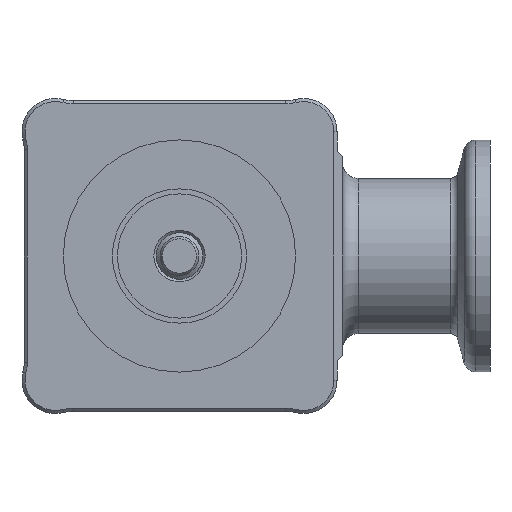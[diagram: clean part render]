
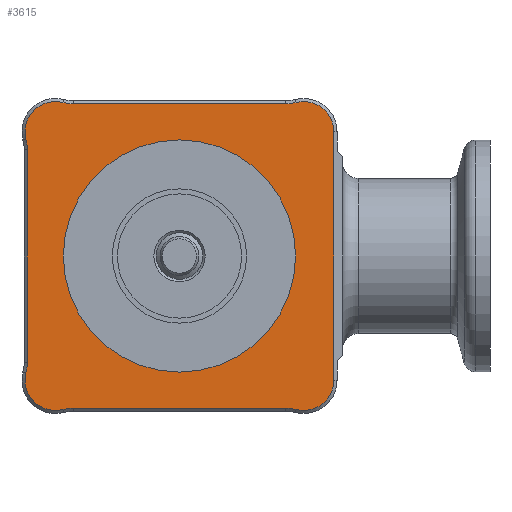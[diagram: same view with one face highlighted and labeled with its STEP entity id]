
A CAD part, front view. The second image highlights one B-rep face of the part: STEP entity #3615.
In plain terms, the highlighted planar face has unit normal (0, -1, 0).
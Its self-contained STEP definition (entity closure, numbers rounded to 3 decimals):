
#2446=LINE('',#14716,#3015);
#2447=LINE('',#14722,#3016);
#2448=LINE('',#14730,#3017);
#2449=LINE('',#14738,#3018);
#3015=VECTOR('',#11544,1.);
#3016=VECTOR('',#11549,1.);
#3017=VECTOR('',#11556,1.);
#3018=VECTOR('',#11563,1.);
#3615=ADVANCED_FACE('102-0-17',(#4208,#4209),#3911,.F.);
#3911=PLANE('',#9618);
#4208=FACE_BOUND('',#4827,.T.);
#4209=FACE_BOUND('',#4828,.T.);
#4827=EDGE_LOOP('',(#6634));
#4828=EDGE_LOOP('',(#6635,#6636,#6637,#6638,#6639,#6640,#6641,#6642,#6643,
#6644,#6645,#6646,#6647,#6648));
#6634=ORIENTED_EDGE('',*,*,#8485,.T.);
#6635=ORIENTED_EDGE('',*,*,#8486,.T.);
#6636=ORIENTED_EDGE('',*,*,#8487,.T.);
#6637=ORIENTED_EDGE('',*,*,#8488,.T.);
#6638=ORIENTED_EDGE('',*,*,#8489,.T.);
#6639=ORIENTED_EDGE('',*,*,#8490,.T.);
#6640=ORIENTED_EDGE('',*,*,#8491,.T.);
#6641=ORIENTED_EDGE('',*,*,#8492,.T.);
#6642=ORIENTED_EDGE('',*,*,#8493,.T.);
#6643=ORIENTED_EDGE('',*,*,#8494,.T.);
#6644=ORIENTED_EDGE('',*,*,#8495,.T.);
#6645=ORIENTED_EDGE('',*,*,#8496,.T.);
#6646=ORIENTED_EDGE('',*,*,#8497,.T.);
#6647=ORIENTED_EDGE('',*,*,#8498,.T.);
#6648=ORIENTED_EDGE('',*,*,#8499,.T.);
#7540=VERTEX_POINT('',#14712);
#7541=VERTEX_POINT('',#14714);
#7542=VERTEX_POINT('',#14715);
#7543=VERTEX_POINT('',#14717);
#7544=VERTEX_POINT('',#14719);
#7545=VERTEX_POINT('',#14721);
#7546=VERTEX_POINT('',#14723);
#7547=VERTEX_POINT('',#14725);
#7548=VERTEX_POINT('',#14727);
#7549=VERTEX_POINT('',#14729);
#7550=VERTEX_POINT('',#14731);
#7551=VERTEX_POINT('',#14733);
#7552=VERTEX_POINT('',#14735);
#7553=VERTEX_POINT('',#14737);
#7554=VERTEX_POINT('',#14739);
#8485=EDGE_CURVE('',#7540,#7540,#8901,.T.);
#8486=EDGE_CURVE('',#7541,#7542,#8902,.T.);
#8487=EDGE_CURVE('',#7542,#7543,#2446,.T.);
#8488=EDGE_CURVE('',#7543,#7544,#8903,.T.);
#8489=EDGE_CURVE('',#7544,#7545,#8904,.T.);
#8490=EDGE_CURVE('',#7545,#7546,#2447,.T.);
#8491=EDGE_CURVE('',#7546,#7547,#8905,.T.);
#8492=EDGE_CURVE('',#7547,#7548,#8906,.T.);
#8493=EDGE_CURVE('',#7548,#7549,#8907,.T.);
#8494=EDGE_CURVE('',#7549,#7550,#2448,.T.);
#8495=EDGE_CURVE('',#7550,#7551,#8908,.T.);
#8496=EDGE_CURVE('',#7551,#7552,#8909,.T.);
#8497=EDGE_CURVE('',#7552,#7553,#8910,.T.);
#8498=EDGE_CURVE('',#7553,#7554,#2449,.T.);
#8499=EDGE_CURVE('',#7554,#7541,#8911,.T.);
#8901=CIRCLE('',#9607,12.);
#8902=CIRCLE('',#9608,3.9);
#8903=CIRCLE('',#9609,3.9);
#8904=CIRCLE('',#9610,5.4);
#8905=CIRCLE('',#9611,5.4);
#8906=CIRCLE('',#9612,3.9);
#8907=CIRCLE('',#9613,5.4);
#8908=CIRCLE('',#9614,5.4);
#8909=CIRCLE('',#9615,3.9);
#8910=CIRCLE('',#9616,5.4);
#8911=CIRCLE('',#9617,5.4);
#9607=AXIS2_PLACEMENT_3D('',#14711,#11540,#11541);
#9608=AXIS2_PLACEMENT_3D('',#14713,#11542,#11543);
#9609=AXIS2_PLACEMENT_3D('',#14718,#11545,#11546);
#9610=AXIS2_PLACEMENT_3D('',#14720,#11547,#11548);
#9611=AXIS2_PLACEMENT_3D('',#14724,#11550,#11551);
#9612=AXIS2_PLACEMENT_3D('',#14726,#11552,#11553);
#9613=AXIS2_PLACEMENT_3D('',#14728,#11554,#11555);
#9614=AXIS2_PLACEMENT_3D('',#14732,#11557,#11558);
#9615=AXIS2_PLACEMENT_3D('',#14734,#11559,#11560);
#9616=AXIS2_PLACEMENT_3D('',#14736,#11561,#11562);
#9617=AXIS2_PLACEMENT_3D('',#14740,#11564,#11565);
#9618=AXIS2_PLACEMENT_3D('',#14741,#11566,#11567);
#11540=DIRECTION('',(0.,1.,0.));
#11541=DIRECTION('',(0.,0.,1.));
#11542=DIRECTION('',(0.,-1.,0.));
#11543=DIRECTION('',(0.,0.,1.));
#11544=DIRECTION('',(0.,0.,1.));
#11545=DIRECTION('',(0.,-1.,0.));
#11546=DIRECTION('',(0.,0.,1.));
#11547=DIRECTION('',(0.,1.,0.));
#11548=DIRECTION('',(0.,0.,1.));
#11549=DIRECTION('',(-1.,0.,0.));
#11550=DIRECTION('',(0.,1.,0.));
#11551=DIRECTION('',(0.,0.,1.));
#11552=DIRECTION('',(0.,-1.,0.));
#11553=DIRECTION('',(0.,0.,1.));
#11554=DIRECTION('',(0.,1.,0.));
#11555=DIRECTION('',(0.,0.,1.));
#11556=DIRECTION('',(0.,0.,-1.));
#11557=DIRECTION('',(0.,1.,0.));
#11558=DIRECTION('',(0.,0.,1.));
#11559=DIRECTION('',(0.,-1.,0.));
#11560=DIRECTION('',(0.,0.,1.));
#11561=DIRECTION('',(0.,1.,0.));
#11562=DIRECTION('',(0.,0.,1.));
#11563=DIRECTION('',(1.,0.,0.));
#11564=DIRECTION('',(0.,1.,0.));
#11565=DIRECTION('',(0.,0.,1.));
#11566=DIRECTION('',(0.,1.,0.));
#11567=DIRECTION('',(0.,0.,1.));
#14711=CARTESIAN_POINT('',(0.,19.5,0.));
#14712=CARTESIAN_POINT('',(0.,19.5,12.));
#14713=CARTESIAN_POINT('',(16.,19.5,-16.));
#14714=CARTESIAN_POINT('',(15.017,19.5,-19.774));
#14715=CARTESIAN_POINT('',(19.9,19.5,-16.));
#14716=CARTESIAN_POINT('',(19.9,19.5,16.));
#14717=CARTESIAN_POINT('',(19.9,19.5,16.));
#14718=CARTESIAN_POINT('',(16.,19.5,16.));
#14719=CARTESIAN_POINT('',(15.017,19.5,19.774));
#14720=CARTESIAN_POINT('',(13.657,19.5,25.));
#14721=CARTESIAN_POINT('',(13.657,19.5,19.6));
#14722=CARTESIAN_POINT('',(-13.657,19.5,19.6));
#14723=CARTESIAN_POINT('',(-13.657,19.5,19.6));
#14724=CARTESIAN_POINT('',(-13.657,19.5,25.));
#14725=CARTESIAN_POINT('',(-15.017,19.5,19.774));
#14726=CARTESIAN_POINT('',(-16.,19.5,16.));
#14727=CARTESIAN_POINT('',(-19.774,19.5,15.017));
#14728=CARTESIAN_POINT('',(-25.,19.5,13.657));
#14729=CARTESIAN_POINT('',(-19.6,19.5,13.657));
#14730=CARTESIAN_POINT('',(-19.6,19.5,-13.657));
#14731=CARTESIAN_POINT('',(-19.6,19.5,-13.657));
#14732=CARTESIAN_POINT('',(-25.,19.5,-13.657));
#14733=CARTESIAN_POINT('',(-19.774,19.5,-15.017));
#14734=CARTESIAN_POINT('',(-16.,19.5,-16.));
#14735=CARTESIAN_POINT('',(-15.017,19.5,-19.774));
#14736=CARTESIAN_POINT('',(-13.657,19.5,-25.));
#14737=CARTESIAN_POINT('',(-13.657,19.5,-19.6));
#14738=CARTESIAN_POINT('',(13.657,19.5,-19.6));
#14739=CARTESIAN_POINT('',(13.657,19.5,-19.6));
#14740=CARTESIAN_POINT('',(13.657,19.5,-25.));
#14741=CARTESIAN_POINT('',(-21.3,19.5,-21.3));
